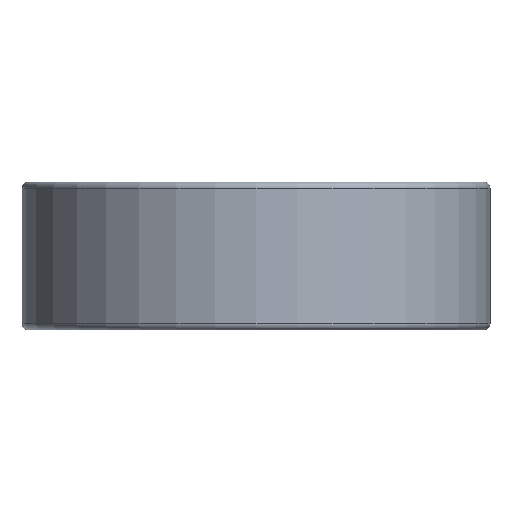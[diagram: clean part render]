
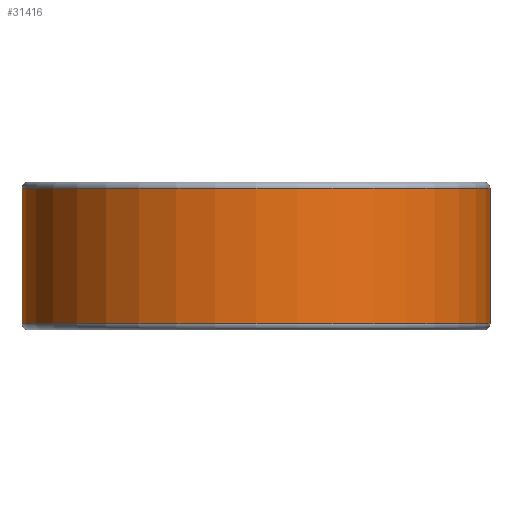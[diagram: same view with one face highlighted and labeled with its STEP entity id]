
A CAD part, front view. The second image highlights one B-rep face of the part: STEP entity #31416.
In plain terms, the highlighted cylindrical face has radius 9.5 mm (diameter 19 mm), a partial arc.
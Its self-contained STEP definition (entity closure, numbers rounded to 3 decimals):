
#1800 = CARTESIAN_POINT ( 'NONE',  ( -9.5, 0., -2.75 ) ) ;
#3473 = CARTESIAN_POINT ( 'NONE',  ( 9.5, 0., 2.75 ) ) ;
#3534 = CIRCLE ( 'NONE', #74820, 9.5 ) ;
#4267 = EDGE_CURVE ( 'NONE', #10808, #59913, #60976, .T. ) ;
#10584 = DIRECTION ( 'NONE',  ( 0., 0., 1. ) ) ;
#10808 = VERTEX_POINT ( 'NONE', #1800 ) ;
#11097 = DIRECTION ( 'NONE',  ( 1., 0., 0. ) ) ;
#13196 = DIRECTION ( 'NONE',  ( 0., 0., 1. ) ) ;
#13538 = EDGE_CURVE ( 'NONE', #10808, #72038, #3534, .T. ) ;
#13955 = VECTOR ( 'NONE', #24033, 1000. ) ;
#15981 = CARTESIAN_POINT ( 'NONE',  ( -9.5, 0., 2.75 ) ) ;
#16421 = CARTESIAN_POINT ( 'NONE',  ( 9.5, 0., -2.75 ) ) ;
#16757 = ORIENTED_EDGE ( 'NONE', *, *, #13538, .T. ) ;
#18716 = ORIENTED_EDGE ( 'NONE', *, *, #19044, .T. ) ;
#18993 = DIRECTION ( 'NONE',  ( 0., 0., 1. ) ) ;
#19044 = EDGE_CURVE ( 'NONE', #72038, #58468, #54373, .T. ) ;
#19402 = CARTESIAN_POINT ( 'NONE',  ( 0., 0., -2.75 ) ) ;
#23573 = CARTESIAN_POINT ( 'NONE',  ( 9.5, 0., 1000. ) ) ;
#24033 = DIRECTION ( 'NONE',  ( 0., 0., 1. ) ) ;
#24286 = ORIENTED_EDGE ( 'NONE', *, *, #65074, .F. ) ;
#31416 = ADVANCED_FACE ( 'NONE', ( #78557 ), #41155, .T. ) ;
#33999 = VECTOR ( 'NONE', #10584, 1000. ) ;
#37656 = DIRECTION ( 'NONE',  ( 1., 0., 0. ) ) ;
#38697 = ORIENTED_EDGE ( 'NONE', *, *, #4267, .F. ) ;
#38798 = CARTESIAN_POINT ( 'NONE',  ( 0., 0., 2.75 ) ) ;
#41155 = CYLINDRICAL_SURFACE ( 'NONE', #66654, 9.5 ) ;
#42337 = DIRECTION ( 'NONE',  ( 0., 0., 1. ) ) ;
#47333 = AXIS2_PLACEMENT_3D ( 'NONE', #38798, #13196, #76179 ) ;
#53051 = EDGE_LOOP ( 'NONE', ( #38697, #16757, #18716, #24286 ) ) ;
#54373 = LINE ( 'NONE', #23573, #33999 ) ;
#54846 = CARTESIAN_POINT ( 'NONE',  ( -9.5, 0., 1000. ) ) ;
#58468 = VERTEX_POINT ( 'NONE', #3473 ) ;
#59913 = VERTEX_POINT ( 'NONE', #15981 ) ;
#60976 = LINE ( 'NONE', #54846, #13955 ) ;
#61619 = CIRCLE ( 'NONE', #47333, 9.5 ) ;
#65074 = EDGE_CURVE ( 'NONE', #59913, #58468, #61619, .T. ) ;
#65914 = CARTESIAN_POINT ( 'NONE',  ( 0., 0., 1000. ) ) ;
#66654 = AXIS2_PLACEMENT_3D ( 'NONE', #65914, #42337, #11097 ) ;
#72038 = VERTEX_POINT ( 'NONE', #16421 ) ;
#74820 = AXIS2_PLACEMENT_3D ( 'NONE', #19402, #18993, #37656 ) ;
#76179 = DIRECTION ( 'NONE',  ( 1., 0., 0. ) ) ;
#78557 = FACE_OUTER_BOUND ( 'NONE', #53051, .T. ) ;
